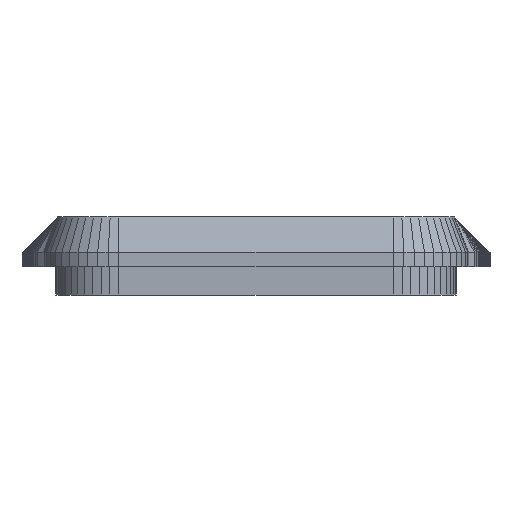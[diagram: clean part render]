
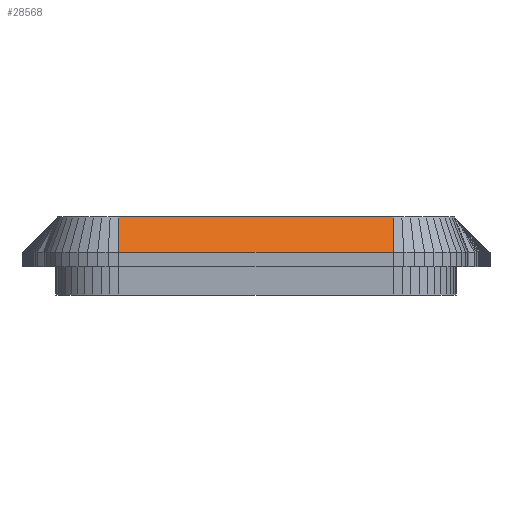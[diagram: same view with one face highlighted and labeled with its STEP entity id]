
A CAD part, left-side view. The second image highlights one B-rep face of the part: STEP entity #28568.
In plain terms, the highlighted planar face has unit normal (-0.928, 0, 0.371).
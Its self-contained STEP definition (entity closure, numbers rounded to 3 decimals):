
#2415 = PLANE('',#2416);
#2416 = AXIS2_PLACEMENT_3D('',#2417,#2418,#2419);
#2417 = CARTESIAN_POINT('',(-66.,29.,3.));
#2418 = DIRECTION('',(-1.,0.,0.));
#2419 = DIRECTION('',(0.,-1.,0.));
#6798 = PLANE('',#6799);
#6799 = AXIS2_PLACEMENT_3D('',#6800,#6801,#6802);
#6800 = CARTESIAN_POINT('',(50.,42.,10.5));
#6801 = DIRECTION('',(0.,0.,1.));
#6802 = DIRECTION('',(-0.818,-0.575,0.));
#14995 = VERTEX_POINT('',#14996);
#14996 = CARTESIAN_POINT('',(-66.,29.,3.));
#15028 = B_SPLINE_SURFACE_WITH_KNOTS('',1,1,(
    (#15029,#15030)
    ,(#15031,#15032
    )),.UNSPECIFIED.,.F.,.F.,.F.,(2,2),(2,2),(0.,2.283),(0.,1.)
  ,.PIECEWISE_BEZIER_KNOTS.);
#15029 = CARTESIAN_POINT('',(-65.837,31.277,3.));
#15030 = CARTESIAN_POINT('',(-62.868,30.85,10.5));
#15031 = CARTESIAN_POINT('',(-66.,29.,3.));
#15032 = CARTESIAN_POINT('',(-63.,29.,10.5));
#15097 = VERTEX_POINT('',#15098);
#15098 = CARTESIAN_POINT('',(-66.,-29.,3.));
#15116 = EDGE_CURVE('',#15097,#14995,#15117,.T.);
#15117 = SURFACE_CURVE('',#15118,(#15122,#15129),.PCURVE_S1.);
#15118 = LINE('',#15119,#15120);
#15119 = CARTESIAN_POINT('',(-66.,-29.,3.));
#15120 = VECTOR('',#15121,1.);
#15121 = DIRECTION('',(0.,1.,0.));
#15122 = PCURVE('',#2415,#15123);
#15123 = DEFINITIONAL_REPRESENTATION('',(#15124),#15128);
#15124 = LINE('',#15125,#15126);
#15125 = CARTESIAN_POINT('',(58.,0.));
#15126 = VECTOR('',#15127,1.);
#15127 = DIRECTION('',(-1.,0.));
#15128 = ( GEOMETRIC_REPRESENTATION_CONTEXT(2) 
PARAMETRIC_REPRESENTATION_CONTEXT() REPRESENTATION_CONTEXT('2D SPACE',''
  ) );
#15129 = PCURVE('',#15130,#15135);
#15130 = PLANE('',#15131);
#15131 = AXIS2_PLACEMENT_3D('',#15132,#15133,#15134);
#15132 = CARTESIAN_POINT('',(-63.,29.,10.5));
#15133 = DIRECTION('',(-0.928,0.,0.371));
#15134 = DIRECTION('',(0.,-1.,0.));
#15135 = DEFINITIONAL_REPRESENTATION('',(#15136),#15140);
#15136 = LINE('',#15137,#15138);
#15137 = CARTESIAN_POINT('',(58.,-8.078));
#15138 = VECTOR('',#15139,1.);
#15139 = DIRECTION('',(-1.,0.));
#15140 = ( GEOMETRIC_REPRESENTATION_CONTEXT(2) 
PARAMETRIC_REPRESENTATION_CONTEXT() REPRESENTATION_CONTEXT('2D SPACE',''
  ) );
#15232 = B_SPLINE_SURFACE_WITH_KNOTS('',1,1,(
    (#15233,#15234)
    ,(#15235,#15236
    )),.UNSPECIFIED.,.F.,.F.,.F.,(2,2),(2,2),(0.,2.283),(0.,1.)
  ,.PIECEWISE_BEZIER_KNOTS.);
#15233 = CARTESIAN_POINT('',(-66.,-29.,3.));
#15234 = CARTESIAN_POINT('',(-63.,-29.,10.5));
#15235 = CARTESIAN_POINT('',(-65.837,-31.277,3.));
#15236 = CARTESIAN_POINT('',(-62.868,-30.85,10.5));
#20448 = VERTEX_POINT('',#20449);
#20449 = CARTESIAN_POINT('',(-63.,29.,10.5));
#20469 = EDGE_CURVE('',#20448,#20470,#20472,.T.);
#20470 = VERTEX_POINT('',#20471);
#20471 = CARTESIAN_POINT('',(-63.,-29.,10.5));
#20472 = SURFACE_CURVE('',#20473,(#20477,#20484),.PCURVE_S1.);
#20473 = LINE('',#20474,#20475);
#20474 = CARTESIAN_POINT('',(-63.,29.,10.5));
#20475 = VECTOR('',#20476,1.);
#20476 = DIRECTION('',(0.,-1.,0.));
#20477 = PCURVE('',#6798,#20478);
#20478 = DEFINITIONAL_REPRESENTATION('',(#20479),#20483);
#20479 = LINE('',#20480,#20481);
#20480 = CARTESIAN_POINT('',(99.906,-54.376));
#20481 = VECTOR('',#20482,1.);
#20482 = DIRECTION('',(0.575,0.818));
#20483 = ( GEOMETRIC_REPRESENTATION_CONTEXT(2) 
PARAMETRIC_REPRESENTATION_CONTEXT() REPRESENTATION_CONTEXT('2D SPACE',''
  ) );
#20484 = PCURVE('',#15130,#20485);
#20485 = DEFINITIONAL_REPRESENTATION('',(#20486),#20490);
#20486 = LINE('',#20487,#20488);
#20487 = CARTESIAN_POINT('',(0.,0.));
#20488 = VECTOR('',#20489,1.);
#20489 = DIRECTION('',(1.,0.));
#20490 = ( GEOMETRIC_REPRESENTATION_CONTEXT(2) 
PARAMETRIC_REPRESENTATION_CONTEXT() REPRESENTATION_CONTEXT('2D SPACE',''
  ) );
#28522 = EDGE_CURVE('',#14995,#20448,#28523,.T.);
#28523 = SURFACE_CURVE('',#28524,(#28527,#28534),.PCURVE_S1.);
#28524 = B_SPLINE_CURVE_WITH_KNOTS('',1,(#28525,#28526),.UNSPECIFIED.,
  .F.,.F.,(2,2),(0.,1.),.PIECEWISE_BEZIER_KNOTS.);
#28525 = CARTESIAN_POINT('',(-66.,29.,3.));
#28526 = CARTESIAN_POINT('',(-63.,29.,10.5));
#28527 = PCURVE('',#15028,#28528);
#28528 = DEFINITIONAL_REPRESENTATION('',(#28529),#28533);
#28529 = LINE('',#28530,#28531);
#28530 = CARTESIAN_POINT('',(2.283,0.));
#28531 = VECTOR('',#28532,1.);
#28532 = DIRECTION('',(0.,1.));
#28533 = ( GEOMETRIC_REPRESENTATION_CONTEXT(2) 
PARAMETRIC_REPRESENTATION_CONTEXT() REPRESENTATION_CONTEXT('2D SPACE',''
  ) );
#28534 = PCURVE('',#15130,#28535);
#28535 = DEFINITIONAL_REPRESENTATION('',(#28536),#28539);
#28536 = B_SPLINE_CURVE_WITH_KNOTS('',1,(#28537,#28538),.UNSPECIFIED.,
  .F.,.F.,(2,2),(0.,1.),.PIECEWISE_BEZIER_KNOTS.);
#28537 = CARTESIAN_POINT('',(0.,-8.078));
#28538 = CARTESIAN_POINT('',(0.,0.));
#28539 = ( GEOMETRIC_REPRESENTATION_CONTEXT(2) 
PARAMETRIC_REPRESENTATION_CONTEXT() REPRESENTATION_CONTEXT('2D SPACE',''
  ) );
#28568 = ADVANCED_FACE('',(#28569),#15130,.T.);
#28569 = FACE_BOUND('',#28570,.T.);
#28570 = EDGE_LOOP('',(#28571,#28572,#28591,#28592));
#28571 = ORIENTED_EDGE('',*,*,#15116,.F.);
#28572 = ORIENTED_EDGE('',*,*,#28573,.T.);
#28573 = EDGE_CURVE('',#15097,#20470,#28574,.T.);
#28574 = SURFACE_CURVE('',#28575,(#28578,#28584),.PCURVE_S1.);
#28575 = B_SPLINE_CURVE_WITH_KNOTS('',1,(#28576,#28577),.UNSPECIFIED.,
  .F.,.F.,(2,2),(0.,1.),.PIECEWISE_BEZIER_KNOTS.);
#28576 = CARTESIAN_POINT('',(-66.,-29.,3.));
#28577 = CARTESIAN_POINT('',(-63.,-29.,10.5));
#28578 = PCURVE('',#15130,#28579);
#28579 = DEFINITIONAL_REPRESENTATION('',(#28580),#28583);
#28580 = B_SPLINE_CURVE_WITH_KNOTS('',1,(#28581,#28582),.UNSPECIFIED.,
  .F.,.F.,(2,2),(0.,1.),.PIECEWISE_BEZIER_KNOTS.);
#28581 = CARTESIAN_POINT('',(58.,-8.078));
#28582 = CARTESIAN_POINT('',(58.,0.));
#28583 = ( GEOMETRIC_REPRESENTATION_CONTEXT(2) 
PARAMETRIC_REPRESENTATION_CONTEXT() REPRESENTATION_CONTEXT('2D SPACE',''
  ) );
#28584 = PCURVE('',#15232,#28585);
#28585 = DEFINITIONAL_REPRESENTATION('',(#28586),#28590);
#28586 = LINE('',#28587,#28588);
#28587 = CARTESIAN_POINT('',(0.,0.));
#28588 = VECTOR('',#28589,1.);
#28589 = DIRECTION('',(0.,1.));
#28590 = ( GEOMETRIC_REPRESENTATION_CONTEXT(2) 
PARAMETRIC_REPRESENTATION_CONTEXT() REPRESENTATION_CONTEXT('2D SPACE',''
  ) );
#28591 = ORIENTED_EDGE('',*,*,#20469,.F.);
#28592 = ORIENTED_EDGE('',*,*,#28522,.F.);
